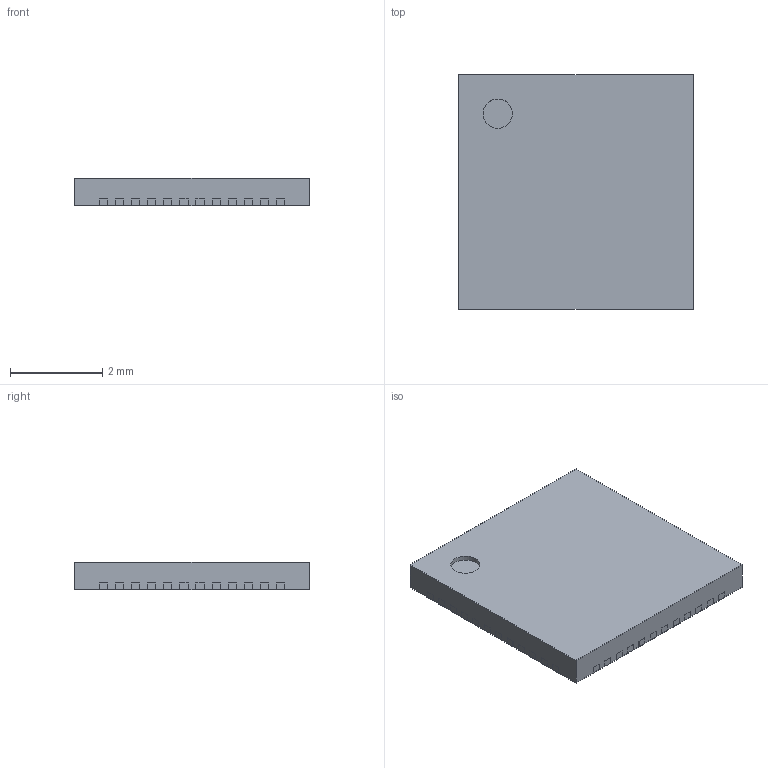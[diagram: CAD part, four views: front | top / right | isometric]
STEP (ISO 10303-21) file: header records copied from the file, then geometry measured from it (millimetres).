
FILE_DESCRIPTION(('Open CASCADE Model'),'2;1');
FILE_NAME('Open CASCADE Shape Model','2022-11-15T17:41:54',('Author'),( 'Open CASCADE'),'Open CASCADE STEP processor 6.8','Open CASCADE 6.8' ,'Unknown');
FILE_SCHEMA(('AUTOMOTIVE_DESIGN { 1 0 10303 214 1 1 1 1 }'));
Length unit declared in the file: millimetre
Products named in the file (7): QFN35P500X500X60_HS-49N.step; Open CASCADE STEP translator 6.8 56.1; Body; Open CASCADE STEP translator 6.8 56.2.1; Thermal_Shape; Pin_Shape; Open CASCADE STEP translator 6.8 56.4.1
Assembly tree (53 placements, depth 3):
  QFN35P500X500X60_HS-49N.step
    Open CASCADE STEP translator 6.8 56.1
    Body
      Open CASCADE STEP translator 6.8 56.2.1
    Thermal_Shape
    Pin_Shape  x48
      Open CASCADE STEP translator 6.8 56.4.1
Bounding box: 5.1 x 5.1 x 0.6 mm (x, y, z)
Volume: 15.6 mm3; surface area: 100.8 mm2
Topology: 50 solids, 51 shells, 688 faces, 1375 edges, 789 vertices
Faces by surface type: plane 687, cylinder 1
Full cylindrical faces by diameter (mm): 0.637 x1
Entity records: 1282 total; most frequent: DIRECTION 230, CARTESIAN_POINT 180, ORIENTED_EDGE 117, AXIS2_PLACEMENT_3D 87, PRODUCT_DEFINITION_SHAPE 60, EDGE_CURVE 59, LINE 56, VECTOR 56
